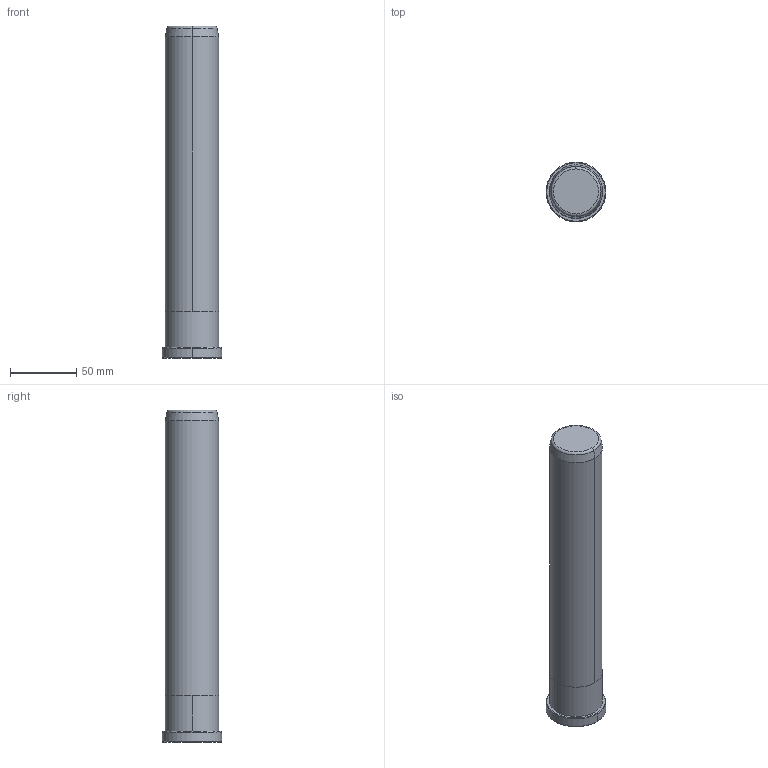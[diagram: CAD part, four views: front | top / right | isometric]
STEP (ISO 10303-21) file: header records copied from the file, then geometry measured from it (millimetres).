
FILE_DESCRIPTION((''),'2;1');
FILE_NAME('B80840250','2018-01-06T',('MANU'),(''),'PRO/ENGINEER BY PARAMETRIC TECHNOLOGY CORPORATION, 2012130','PRO/ENGINEER BY PARAMETRIC TECHNOLOGY CORPORATION, 2012130','');
FILE_SCHEMA(('CONFIG_CONTROL_DESIGN'));
Length unit declared in the file: millimetre
Products named in the file (1): B80840250
Bounding box: 45 x 45 x 250 mm (x, y, z)
Volume: 316071.3 mm3; surface area: 34382 mm2
Topology: 1 solids, 1 shells, 18 faces, 34 edges, 20 vertices
Faces by surface type: cone 6, cylinder 6, plane 4, torus 2
Entity records: 494 total; most frequent: DIRECTION 92, CARTESIAN_POINT 72, ORIENTED_EDGE 68, AXIS2_PLACEMENT_3D 40, EDGE_CURVE 34, CIRCLE 22, VERTEX_POINT 20, EDGE_LOOP 20
